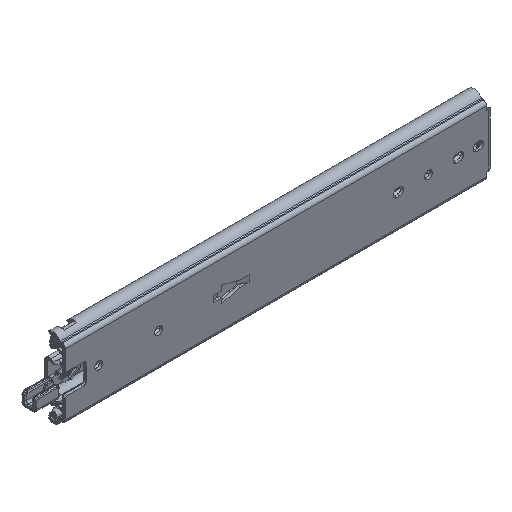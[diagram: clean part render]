
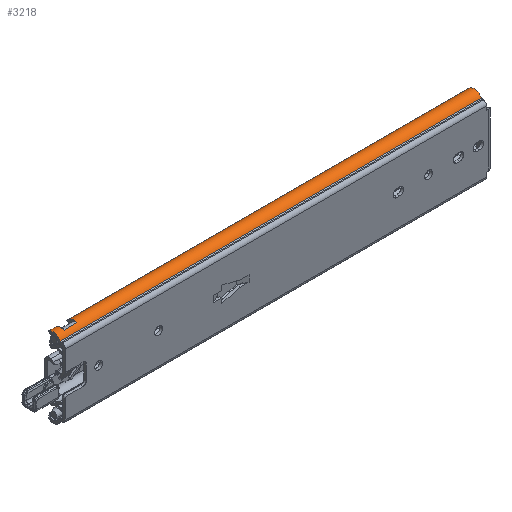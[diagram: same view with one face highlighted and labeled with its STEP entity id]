
A CAD part, isometric view. The second image highlights one B-rep face of the part: STEP entity #3218.
In plain terms, the highlighted cylindrical face has radius 7.25 mm (diameter 14.5 mm), a partial arc.
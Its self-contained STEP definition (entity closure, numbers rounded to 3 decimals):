
#5=CARTESIAN_POINT('',(0.,11.5,30.4));
#6=DIRECTION('',(1.,0.,0.));
#7=DIRECTION('',(0.,0.632,0.775));
#8=AXIS2_PLACEMENT_3D('',#5,#6,#7);
#827=CARTESIAN_POINT('',(401.4,11.5,30.4));
#828=DIRECTION('',(1.,0.,0.));
#829=DIRECTION('',(0.,0.38,0.925));
#830=AXIS2_PLACEMENT_3D('',#827,#828,#829);
#876=CARTESIAN_POINT('',(1.401,17.079,35.031));
#877=CARTESIAN_POINT('',(0.932,16.779,35.392));
#878=CARTESIAN_POINT('',(0.465,16.446,35.722));
#879=CARTESIAN_POINT('',(0.,16.079,36.021));
#881=DIRECTION('',(1.,0.,0.));
#882=VECTOR('',#881,6.099);
#883=CARTESIAN_POINT('',(1.401,17.079,35.031));
#884=LINE('',#883,#882);
#885=CARTESIAN_POINT('',(7.5,11.5,30.4));
#886=DIRECTION('',(1.,0.,0.));
#887=DIRECTION('',(0.,0.769,0.639));
#888=AXIS2_PLACEMENT_3D('',#885,#886,#887);
#890=CARTESIAN_POINT('',(19.5,11.5,30.4));
#891=DIRECTION('',(1.,0.,0.));
#892=DIRECTION('',(0.,0.769,0.639));
#893=AXIS2_PLACEMENT_3D('',#890,#891,#892);
#895=DIRECTION('',(1.,0.,0.));
#896=VECTOR('',#895,380.565);
#897=CARTESIAN_POINT('',(19.5,17.079,35.031));
#898=LINE('',#897,#896);
#899=CARTESIAN_POINT('',(401.4,14.255,37.106));
#900=CARTESIAN_POINT('',(401.4,14.607,36.962));
#901=CARTESIAN_POINT('',(401.332,15.25,36.633));
#902=CARTESIAN_POINT('',(401.043,16.045,36.073));
#903=CARTESIAN_POINT('',(400.595,16.664,35.507));
#904=CARTESIAN_POINT('',(400.248,16.953,35.182));
#905=CARTESIAN_POINT('',(400.065,17.079,35.031));
#907=DIRECTION('',(1.,0.,0.));
#908=VECTOR('',#907,401.4);
#909=CARTESIAN_POINT('',(0.,4.916,33.436));
#910=LINE('',#909,#908);
#1219=DIRECTION('',(1.,0.,0.));
#1220=VECTOR('',#1219,12.);
#1221=CARTESIAN_POINT('',(7.5,8.515,37.007));
#1222=LINE('',#1221,#1220);
#1674=CARTESIAN_POINT('',(0.,4.916,33.436));
#1676=VERTEX_POINT('',#1674);
#1698=CARTESIAN_POINT('',(7.5,17.079,35.031));
#1700=VERTEX_POINT('',#1698);
#1702=CARTESIAN_POINT('',(19.5,17.079,35.031));
#1704=VERTEX_POINT('',#1702);
#1749=CARTESIAN_POINT('',(7.5,8.515,37.007));
#1750=VERTEX_POINT('',#1749);
#1751=CARTESIAN_POINT('',(19.5,8.515,37.007));
#1752=VERTEX_POINT('',#1751);
#2048=CARTESIAN_POINT('',(401.4,4.916,33.436));
#2049=VERTEX_POINT('',#2048);
#2106=VERTEX_POINT('',#899);
#2107=VERTEX_POINT('',#905);
#2130=CARTESIAN_POINT('',(1.401,17.079,35.031));
#2131=VERTEX_POINT('',#2130);
#2132=VERTEX_POINT('',#879);
#3195=CARTESIAN_POINT('',(0.,11.5,30.4));
#3196=DIRECTION('',(1.,0.,0.));
#3197=DIRECTION('',(0.,-1.,0.));
#3198=AXIS2_PLACEMENT_3D('',#3195,#3196,#3197);
#3199=CYLINDRICAL_SURFACE('',#3198,7.25);
#3200=ORIENTED_EDGE('',*,*,#2227,.F.);
#3202=ORIENTED_EDGE('',*,*,#3201,.T.);
#3204=ORIENTED_EDGE('',*,*,#3203,.T.);
#3206=ORIENTED_EDGE('',*,*,#3205,.T.);
#3208=ORIENTED_EDGE('',*,*,#3207,.F.);
#3210=ORIENTED_EDGE('',*,*,#3209,.T.);
#3211=ORIENTED_EDGE('',*,*,#3182,.F.);
#3212=ORIENTED_EDGE('',*,*,#3143,.T.);
#3214=ORIENTED_EDGE('',*,*,#3213,.F.);
#3215=ORIENTED_EDGE('',*,*,#2149,.F.);
#3216=EDGE_LOOP('',(#3200,#3202,#3204,#3206,#3208,#3210,#3211,#3212,#3214,
#3215));
#3217=FACE_OUTER_BOUND('',#3216,.F.);
#9=CIRCLE('',#8,7.25);
#831=CIRCLE('',#830,7.25);
#880=B_SPLINE_CURVE_WITH_KNOTS('',3,(#876,#877,#878,#879),.UNSPECIFIED.,.F.,.F.,
(4,4),(0.,1.),.UNSPECIFIED.);
#889=CIRCLE('',#888,7.25);
#894=CIRCLE('',#893,7.25);
#906=B_SPLINE_CURVE_WITH_KNOTS('',3,(#899,#900,#901,#902,#903,#904,#905),
.UNSPECIFIED.,.F.,.F.,(4,1,1,1,4),(0.,0.25,0.5,0.75,1.),
.UNSPECIFIED.);
#2149=EDGE_CURVE('',#2132,#1676,#9,.T.);
#2227=EDGE_CURVE('',#2131,#2132,#880,.T.);
#3143=EDGE_CURVE('',#2106,#2049,#831,.T.);
#3182=EDGE_CURVE('',#2106,#2107,#906,.T.);
#3201=EDGE_CURVE('',#2131,#1700,#884,.T.);
#3203=EDGE_CURVE('',#1700,#1750,#889,.T.);
#3205=EDGE_CURVE('',#1750,#1752,#1222,.T.);
#3207=EDGE_CURVE('',#1704,#1752,#894,.T.);
#3209=EDGE_CURVE('',#1704,#2107,#898,.T.);
#3213=EDGE_CURVE('',#1676,#2049,#910,.T.);
#3218=ADVANCED_FACE('',(#3217),#3199,.T.);
